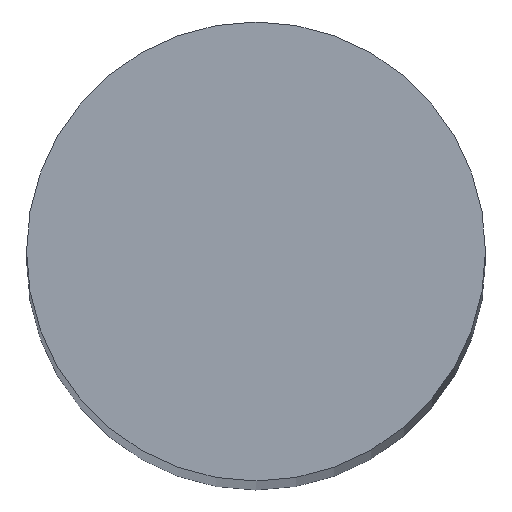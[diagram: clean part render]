
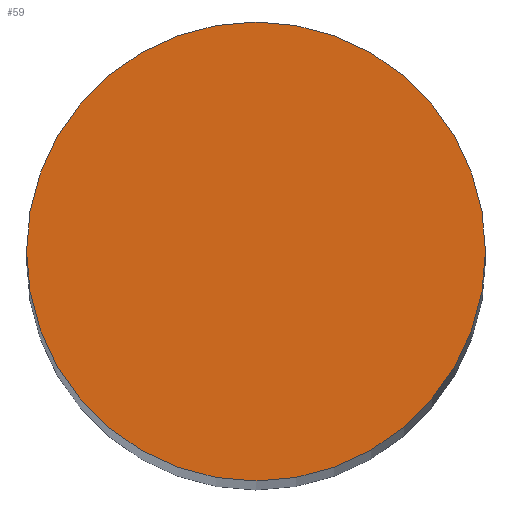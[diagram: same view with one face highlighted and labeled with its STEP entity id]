
A CAD part, top view. The second image highlights one B-rep face of the part: STEP entity #59.
In plain terms, the highlighted planar face has unit normal (0, 0, 1).
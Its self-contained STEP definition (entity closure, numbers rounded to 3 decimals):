
#24 = VERTEX_POINT('',#25);
#25 = CARTESIAN_POINT('',(4.,0.,89.95));
#31 = EDGE_CURVE('',#24,#24,#32,.T.);
#32 = CIRCLE('',#33,4.);
#33 = AXIS2_PLACEMENT_3D('',#34,#35,#36);
#34 = CARTESIAN_POINT('',(0.,0.,89.95));
#35 = DIRECTION('',(0.,0.,1.));
#36 = DIRECTION('',(1.,0.,0.));
#59 = ADVANCED_FACE('',(#60),#63,.T.);
#60 = FACE_BOUND('',#61,.T.);
#61 = EDGE_LOOP('',(#62));
#62 = ORIENTED_EDGE('',*,*,#31,.T.);
#63 = PLANE('',#64);
#64 = AXIS2_PLACEMENT_3D('',#65,#66,#67);
#65 = CARTESIAN_POINT('',(0.,0.,89.95)
  );
#66 = DIRECTION('',(0.,0.,1.));
#67 = DIRECTION('',(1.,0.,0.));
